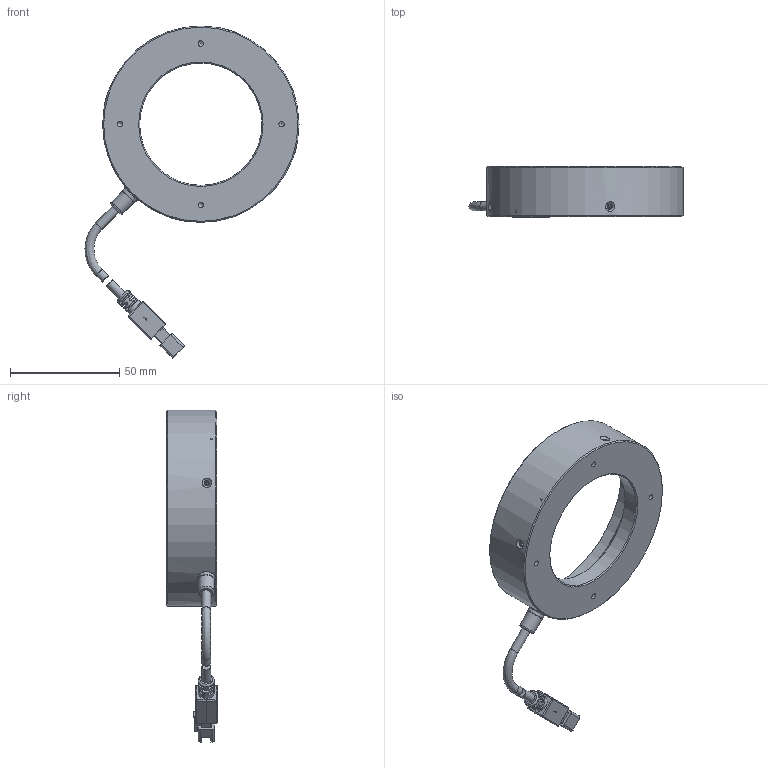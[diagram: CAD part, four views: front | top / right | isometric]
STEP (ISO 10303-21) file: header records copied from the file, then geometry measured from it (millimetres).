
FILE_DESCRIPTION (( 'STEP AP203' ), '1' );
FILE_NAME ('OPT-IRI9045-IR-V2.0.STEP', '2025-02-15T00:44:09', ( '' ), ( '' ), 'SwSTEP 2.0', 'SolidWorks 2016', '' );
FILE_SCHEMA (( 'CONFIG_CONTROL_DESIGN' ));
Length unit declared in the file: millimetre
Products named in the file (1): OPT-IRI9045-IR-V2.0
Bounding box: 98.09 x 23.35 x 152.11 mm (x, y, z)
Volume: 60922.1 mm3; surface area: 26786.4 mm2
Topology: 8 solids, 8 shells, 380 faces, 974 edges, 618 vertices
Faces by surface type: plane 188, cylinder 123, cone 34, bspline 25, torus 6, sphere 4
Full cylindrical faces by diameter (mm): 1.05 x2, 1.1 x6, 1.6 x4, 2 x4, 2.4 x4, 2.5 x4, 3.5 x1, 4.1 x4, 5.8 x1, 7.5 x2, 8 x1, 56 x1, 81.8 x1, 86 x1, 90 x1
Entity records: 12598 total; most frequent: CARTESIAN_POINT 3993, ORIENTED_EDGE 1712, DIRECTION 1709, EDGE_CURVE 856, AXIS2_PLACEMENT_3D 599, VERTEX_POINT 580, VECTOR 511, LINE 511
